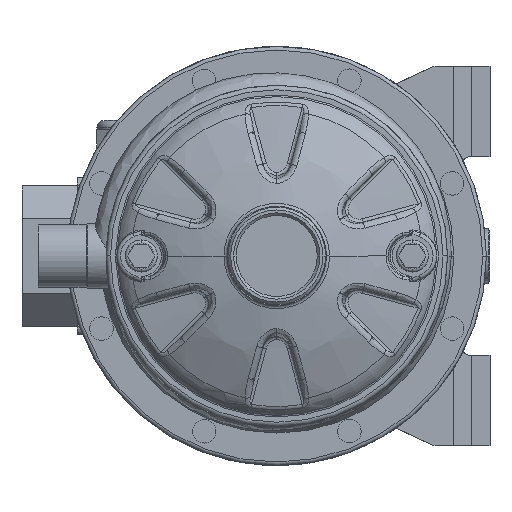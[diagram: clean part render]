
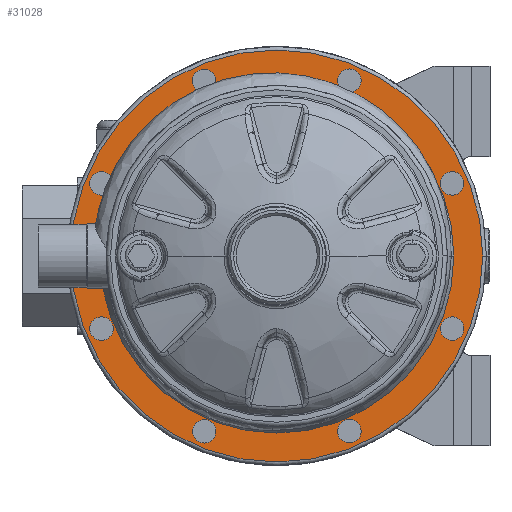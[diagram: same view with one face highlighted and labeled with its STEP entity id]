
A CAD part, left-side view. The second image highlights one B-rep face of the part: STEP entity #31028.
In plain terms, the highlighted planar face has unit normal (-1, 0, 0).
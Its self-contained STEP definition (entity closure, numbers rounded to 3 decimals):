
#23520=CARTESIAN_POINT('',(33.,0.,
0.));
#23521=DIRECTION('',(1.,0.,0.));
#23522=DIRECTION('',(0.,-1.,0.));
#23523=AXIS2_PLACEMENT_3D('',#23520,#23521,#23522);
#23528=CARTESIAN_POINT('',(33.,0.,0.));
#23529=DIRECTION('',(1.,0.,0.));
#23530=DIRECTION('',(0.,1.,0.));
#23531=AXIS2_PLACEMENT_3D('',#23528,#23529,#23530);
#23536=CARTESIAN_POINT('',(33.,0.,0.));
#23537=DIRECTION('',(-1.,0.,0.));
#23538=DIRECTION('',(0.,1.,0.));
#23539=AXIS2_PLACEMENT_3D('',#23536,#23537,#23538);
#23544=CARTESIAN_POINT('',(33.,0.,0.));
#23545=DIRECTION('',(-1.,0.,0.));
#23546=DIRECTION('',(0.,-1.,0.));
#23547=AXIS2_PLACEMENT_3D('',#23544,#23545,#23546);
#23552=CARTESIAN_POINT('',(33.,97.007,40.182));
#23553=DIRECTION('',(-1.,0.,0.));
#23554=DIRECTION('',(0.,0.,1.));
#23555=AXIS2_PLACEMENT_3D('',#23552,#23553,#23554);
#23560=CARTESIAN_POINT('',(33.,97.007,40.182));
#23561=DIRECTION('',(-1.,0.,0.));
#23562=DIRECTION('',(0.,0.,-1.));
#23563=AXIS2_PLACEMENT_3D('',#23560,#23561,#23562);
#23568=CARTESIAN_POINT('',(33.,40.182,97.007));
#23569=DIRECTION('',(-1.,0.,0.));
#23570=DIRECTION('',(0.,-0.707,0.707));
#23571=AXIS2_PLACEMENT_3D('',#23568,#23569,#23570);
#23576=CARTESIAN_POINT('',(33.,40.182,97.007));
#23577=DIRECTION('',(-1.,0.,0.));
#23578=DIRECTION('',(0.,0.707,-0.707));
#23579=AXIS2_PLACEMENT_3D('',#23576,#23577,#23578);
#23584=CARTESIAN_POINT('',(33.,-40.182,97.007));
#23585=DIRECTION('',(-1.,0.,0.));
#23586=DIRECTION('',(0.,-1.,0.));
#23587=AXIS2_PLACEMENT_3D('',#23584,#23585,#23586);
#23592=CARTESIAN_POINT('',(33.,-40.182,97.007));
#23593=DIRECTION('',(-1.,0.,0.));
#23594=DIRECTION('',(0.,1.,0.));
#23595=AXIS2_PLACEMENT_3D('',#23592,#23593,#23594);
#23600=CARTESIAN_POINT('',(33.,-97.007,40.182));
#23601=DIRECTION('',(-1.,0.,0.));
#23602=DIRECTION('',(0.,-0.707,-0.707));
#23603=AXIS2_PLACEMENT_3D('',#23600,#23601,#23602);
#23608=CARTESIAN_POINT('',(33.,-97.007,40.182));
#23609=DIRECTION('',(-1.,0.,0.));
#23610=DIRECTION('',(0.,0.707,0.707));
#23611=AXIS2_PLACEMENT_3D('',#23608,#23609,#23610);
#23616=CARTESIAN_POINT('',(33.,-97.007,-40.182));
#23617=DIRECTION('',(-1.,0.,0.));
#23618=DIRECTION('',(0.,0.,-1.));
#23619=AXIS2_PLACEMENT_3D('',#23616,#23617,#23618);
#23624=CARTESIAN_POINT('',(33.,-97.007,-40.182));
#23625=DIRECTION('',(-1.,0.,0.));
#23626=DIRECTION('',(0.,0.,1.));
#23627=AXIS2_PLACEMENT_3D('',#23624,#23625,#23626);
#23632=CARTESIAN_POINT('',(33.,-40.182,-97.007));
#23633=DIRECTION('',(-1.,0.,0.));
#23634=DIRECTION('',(0.,0.707,-0.707));
#23635=AXIS2_PLACEMENT_3D('',#23632,#23633,#23634);
#23640=CARTESIAN_POINT('',(33.,-40.182,-97.007));
#23641=DIRECTION('',(-1.,0.,0.));
#23642=DIRECTION('',(0.,-0.707,0.707));
#23643=AXIS2_PLACEMENT_3D('',#23640,#23641,#23642);
#23648=CARTESIAN_POINT('',(33.,40.182,-97.007));
#23649=DIRECTION('',(-1.,0.,0.));
#23650=DIRECTION('',(0.,1.,0.));
#23651=AXIS2_PLACEMENT_3D('',#23648,#23649,#23650);
#23656=CARTESIAN_POINT('',(33.,40.182,-97.007));
#23657=DIRECTION('',(-1.,0.,0.));
#23658=DIRECTION('',(0.,-1.,0.));
#23659=AXIS2_PLACEMENT_3D('',#23656,#23657,#23658);
#23664=CARTESIAN_POINT('',(33.,97.007,-40.182));
#23665=DIRECTION('',(-1.,0.,0.));
#23666=DIRECTION('',(0.,0.707,0.707));
#23667=AXIS2_PLACEMENT_3D('',#23664,#23665,#23666);
#23672=CARTESIAN_POINT('',(33.,97.007,-40.182));
#23673=DIRECTION('',(-1.,0.,0.));
#23674=DIRECTION('',(0.,-0.707,-0.707));
#23675=AXIS2_PLACEMENT_3D('',#23672,#23673,#23674);
#30343=CARTESIAN_POINT('',(33.,-98.,
0.));
#30344=CARTESIAN_POINT('',(33.,98.,
0.));
#30345=VERTEX_POINT('',#30343);
#30346=VERTEX_POINT('',#30344);
#30347=CARTESIAN_POINT('',(33.,114.,0.));
#30348=CARTESIAN_POINT('',(33.,-114.,0.));
#30349=VERTEX_POINT('',#30347);
#30350=VERTEX_POINT('',#30348);
#30367=CARTESIAN_POINT('',(33.,97.007,46.682));
#30368=CARTESIAN_POINT('',(33.,97.007,33.682));
#30369=VERTEX_POINT('',#30367);
#30370=VERTEX_POINT('',#30368);
#30399=CARTESIAN_POINT('',(33.,35.586,101.604));
#30400=VERTEX_POINT('',#30399);
#30401=CARTESIAN_POINT('',(33.,44.778,92.411));
#30402=VERTEX_POINT('',#30401);
#30415=CARTESIAN_POINT('',(33.,-46.682,97.007));
#30416=VERTEX_POINT('',#30415);
#30417=CARTESIAN_POINT('',(33.,-33.682,97.007));
#30418=VERTEX_POINT('',#30417);
#30431=CARTESIAN_POINT('',(33.,-101.604,35.586));
#30432=VERTEX_POINT('',#30431);
#30433=CARTESIAN_POINT('',(33.,-92.411,44.778));
#30434=VERTEX_POINT('',#30433);
#30447=CARTESIAN_POINT('',(33.,-97.007,-46.682));
#30448=VERTEX_POINT('',#30447);
#30449=CARTESIAN_POINT('',(33.,-97.007,-33.682));
#30450=VERTEX_POINT('',#30449);
#30463=CARTESIAN_POINT('',(33.,-35.586,-101.604));
#30464=VERTEX_POINT('',#30463);
#30465=CARTESIAN_POINT('',(33.,-44.778,-92.411));
#30466=VERTEX_POINT('',#30465);
#30479=CARTESIAN_POINT('',(33.,46.682,-97.007));
#30480=VERTEX_POINT('',#30479);
#30481=CARTESIAN_POINT('',(33.,33.682,-97.007));
#30482=VERTEX_POINT('',#30481);
#30495=CARTESIAN_POINT('',(33.,101.604,-35.586));
#30496=VERTEX_POINT('',#30495);
#30497=CARTESIAN_POINT('',(33.,92.411,-44.778));
#30498=VERTEX_POINT('',#30497);
#30964=CARTESIAN_POINT('',(33.,0.,0.));
#30965=DIRECTION('',(1.,0.,0.));
#30966=DIRECTION('',(0.,-1.,0.));
#30967=AXIS2_PLACEMENT_3D('',#30964,#30965,#30966);
#30968=PLANE('',#30967);
#30970=ORIENTED_EDGE('',*,*,#30969,.F.);
#30971=ORIENTED_EDGE('',*,*,#30954,.F.);
#30972=EDGE_LOOP('',(#30970,#30971));
#30973=FACE_OUTER_BOUND('',#30972,.F.);
#30975=ORIENTED_EDGE('',*,*,#30974,.F.);
#30977=ORIENTED_EDGE('',*,*,#30976,.F.);
#30978=EDGE_LOOP('',(#30975,#30977));
#30979=FACE_BOUND('',#30978,.F.);
#30981=ORIENTED_EDGE('',*,*,#30980,.T.);
#30983=ORIENTED_EDGE('',*,*,#30982,.T.);
#30984=EDGE_LOOP('',(#30981,#30983));
#30985=FACE_BOUND('',#30984,.F.);
#30987=ORIENTED_EDGE('',*,*,#30986,.T.);
#30989=ORIENTED_EDGE('',*,*,#30988,.T.);
#30990=EDGE_LOOP('',(#30987,#30989));
#30991=FACE_BOUND('',#30990,.F.);
#30993=ORIENTED_EDGE('',*,*,#30992,.T.);
#30995=ORIENTED_EDGE('',*,*,#30994,.T.);
#30996=EDGE_LOOP('',(#30993,#30995));
#30997=FACE_BOUND('',#30996,.F.);
#30999=ORIENTED_EDGE('',*,*,#30998,.T.);
#31001=ORIENTED_EDGE('',*,*,#31000,.T.);
#31002=EDGE_LOOP('',(#30999,#31001));
#31003=FACE_BOUND('',#31002,.F.);
#31005=ORIENTED_EDGE('',*,*,#31004,.T.);
#31007=ORIENTED_EDGE('',*,*,#31006,.T.);
#31008=EDGE_LOOP('',(#31005,#31007));
#31009=FACE_BOUND('',#31008,.F.);
#31011=ORIENTED_EDGE('',*,*,#31010,.T.);
#31013=ORIENTED_EDGE('',*,*,#31012,.T.);
#31014=EDGE_LOOP('',(#31011,#31013));
#31015=FACE_BOUND('',#31014,.F.);
#31017=ORIENTED_EDGE('',*,*,#31016,.T.);
#31019=ORIENTED_EDGE('',*,*,#31018,.T.);
#31020=EDGE_LOOP('',(#31017,#31019));
#31021=FACE_BOUND('',#31020,.F.);
#31023=ORIENTED_EDGE('',*,*,#31022,.T.);
#31025=ORIENTED_EDGE('',*,*,#31024,.T.);
#31026=EDGE_LOOP('',(#31023,#31025));
#31027=FACE_BOUND('',#31026,.F.);
#23524=CIRCLE('',#23523,98.);
#23532=CIRCLE('',#23531,98.);
#23540=CIRCLE('',#23539,114.);
#23548=CIRCLE('',#23547,114.);
#23556=CIRCLE('',#23555,6.5);
#23564=CIRCLE('',#23563,6.5);
#23572=CIRCLE('',#23571,6.5);
#23580=CIRCLE('',#23579,6.5);
#23588=CIRCLE('',#23587,6.5);
#23596=CIRCLE('',#23595,6.5);
#23604=CIRCLE('',#23603,6.5);
#23612=CIRCLE('',#23611,6.5);
#23620=CIRCLE('',#23619,6.5);
#23628=CIRCLE('',#23627,6.5);
#23636=CIRCLE('',#23635,6.5);
#23644=CIRCLE('',#23643,6.5);
#23652=CIRCLE('',#23651,6.5);
#23660=CIRCLE('',#23659,6.5);
#23668=CIRCLE('',#23667,6.5);
#23676=CIRCLE('',#23675,6.5);
#30954=EDGE_CURVE('',#30350,#30349,#23548,.T.);
#30969=EDGE_CURVE('',#30349,#30350,#23540,.T.);
#30974=EDGE_CURVE('',#30345,#30346,#23524,.T.);
#30976=EDGE_CURVE('',#30346,#30345,#23532,.T.);
#30980=EDGE_CURVE('',#30369,#30370,#23556,.T.);
#30982=EDGE_CURVE('',#30370,#30369,#23564,.T.);
#30986=EDGE_CURVE('',#30400,#30402,#23572,.T.);
#30988=EDGE_CURVE('',#30402,#30400,#23580,.T.);
#30992=EDGE_CURVE('',#30416,#30418,#23588,.T.);
#30994=EDGE_CURVE('',#30418,#30416,#23596,.T.);
#30998=EDGE_CURVE('',#30432,#30434,#23604,.T.);
#31000=EDGE_CURVE('',#30434,#30432,#23612,.T.);
#31004=EDGE_CURVE('',#30448,#30450,#23620,.T.);
#31006=EDGE_CURVE('',#30450,#30448,#23628,.T.);
#31010=EDGE_CURVE('',#30464,#30466,#23636,.T.);
#31012=EDGE_CURVE('',#30466,#30464,#23644,.T.);
#31016=EDGE_CURVE('',#30480,#30482,#23652,.T.);
#31018=EDGE_CURVE('',#30482,#30480,#23660,.T.);
#31022=EDGE_CURVE('',#30496,#30498,#23668,.T.);
#31024=EDGE_CURVE('',#30498,#30496,#23676,.T.);
#31028=ADVANCED_FACE('',(#30973,#30979,#30985,#30991,#30997,#31003,#31009,
#31015,#31021,#31027),#30968,.F.);
